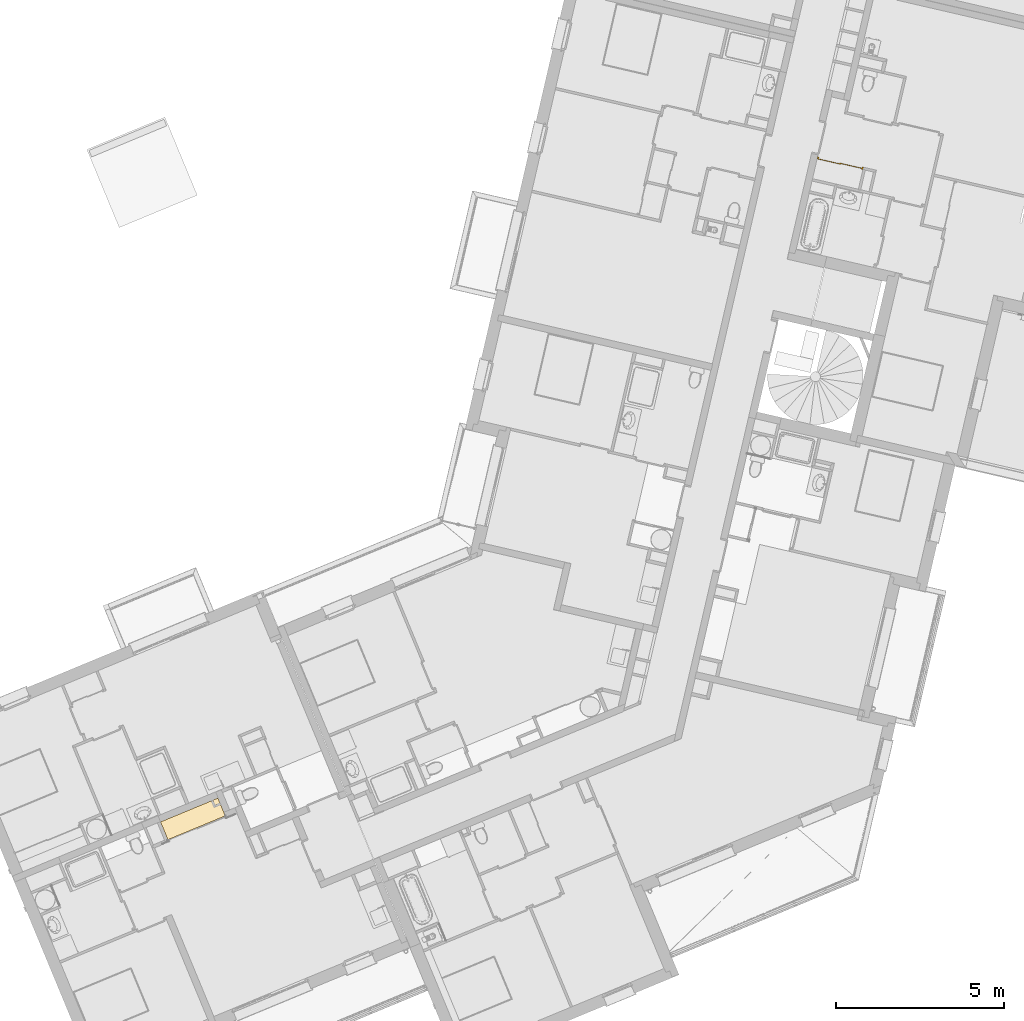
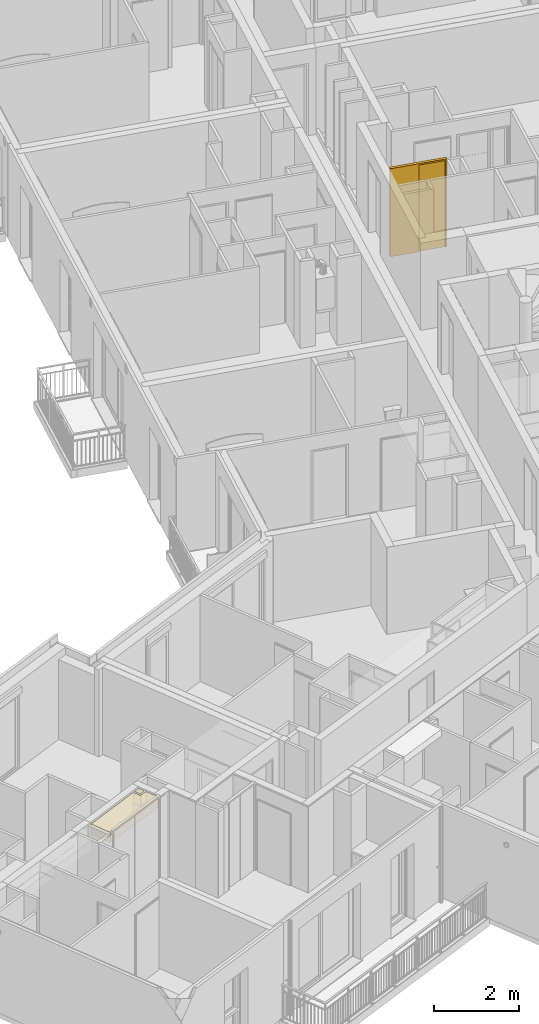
# One storey, part 60 of 90: 1 covering, 1 door.
"""IFC2X3 building model written with IfcOpenShell, lengths in metres."""

from ifc_helpers import new_model, entity, si_unit, converted_unit, derived_unit, money_unit, direction, frame, origin_with_axes, place, context, subcontext, project, spatial, faceted_brep, material, type_object, element, save


model = new_model("IFC2X3")

# Units and contexts
model_context = context("Model", 3, precision=1e-05, world=origin_with_axes(), true_north=direction((0.0, 1.0)))
body_context = subcontext(model_context, "Body", "Model", "MODEL_VIEW")
ifc_project = project(units=[si_unit("LENGTHUNIT", "METRE"), si_unit("AREAUNIT", "SQUARE_METRE"), si_unit("VOLUMEUNIT", "CUBIC_METRE"), converted_unit("PLANEANGLEUNIT", "DEGREE", entity("IfcPlaneAngleMeasure", 0.0174532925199), si_unit("PLANEANGLEUNIT", "RADIAN"), dimensions=[0, 0, 0, 0, 0, 0, 0]), si_unit("SOLIDANGLEUNIT", "STERADIAN"), money_unit("EUR"), converted_unit("TIMEUNIT", "Year", entity("IfcTimeMeasure", 31556926.0), si_unit("TIMEUNIT", "SECOND"), dimensions=[0, 0, 1, 0, 0, 0, 0]), si_unit("MASSUNIT", "GRAM", prefix="KILO"), si_unit("THERMODYNAMICTEMPERATUREUNIT", "DEGREE_CELSIUS"), si_unit("LUMINOUSINTENSITYUNIT", "LUMEN"), si_unit("ENERGYUNIT", "JOULE", prefix="MEGA"), derived_unit("THERMALCONDUCTANCEUNIT", [(si_unit("POWERUNIT", "WATT"), 1), (si_unit("LENGTHUNIT", "METRE"), -1), (si_unit("THERMODYNAMICTEMPERATUREUNIT", "KELVIN"), -1)]), derived_unit("SPECIFICHEATCAPACITYUNIT", [(si_unit("ENERGYUNIT", "JOULE"), 1), (si_unit("MASSUNIT", "GRAM", prefix="KILO"), -1), (si_unit("THERMODYNAMICTEMPERATUREUNIT", "KELVIN"), -1)]), derived_unit("MASSDENSITYUNIT", [(si_unit("MASSUNIT", "GRAM", prefix="KILO"), 1), (si_unit("VOLUMEUNIT", "CUBIC_METRE"), -1)])], contexts=[model_context])

# Site, building, storey
site_placement = place(None, origin_with_axes())
site = spatial("IfcSite", under=ifc_project, at=site_placement, Name="Site", CompositionType="ELEMENT")
building_placement = place(site_placement, origin_with_axes())
building = spatial("IfcBuilding", under=site, at=building_placement, Name="Bâtiment", CompositionType="ELEMENT")
storey_placement = place(building_placement, frame((0.0, 0.0, 2.72), z_axis=(0.0, 0.0, 1.0), x_axis=(1.0, 0.0, 0.0)))
storey = spatial("IfcBuildingStorey", under=building, at=storey_placement, Name="R+1", CompositionType="ELEMENT", Elevation=2.72)

# Door
door_style = type_object("IfcDoorStyle", Name="Porte int générique 2019", ConstructionType="NOTDEFINED", OperationType="USERDEFINED", ParameterTakesPrecedence=False, Sizeable=False)
door_placement = place(storey_placement, frame((-8.13723362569, -1.43199928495, 0.0), z_axis=(0.0, 0.0, 1.0), x_axis=(-0.974387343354, 0.224876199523, 0.0)))
element("IfcDoor", 1, at=door_placement, inside=storey, type_object=door_style, Name="Por-002", ObjectType="DOOR", OverallHeight=2.5, OverallWidth=1.32, context=body_context, shape_type="Brep", body=[
    faceted_brep([(1.36000000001, 0.074, 0.0), (1.32000000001, 0.074, 0.0), (1.32000000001, 0.074, 2.5), (0.0, 0.074, 2.5), (0.0, 0.074, 0.0), (-0.04, 0.074, 0.0), (-0.04, 0.074, 2.54), (1.36000000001, 0.074, 2.54), (1.36000000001, 0.0, 0.0), (1.32000000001, 0.0, 0.0), (1.32000000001, 0.0, 2.5), (0.0, 0.0, 2.5), (0.0, 0.0, 0.0), (-0.04, 0.0, 0.0), (-0.04, 0.0, 2.54), (1.36000000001, 0.0, 2.54)], [[[0, 1, 2, 3, 4, 5, 6, 7]], [[0, 8, 9, 1]], [[1, 9, 10, 2]], [[2, 10, 11, 3]], [[3, 11, 12, 4]], [[5, 4, 12, 13]], [[14, 6, 5, 13]], [[15, 7, 6, 14]], [[8, 0, 7, 15]], [[9, 8, 15, 14, 13, 12, 11, 10]]]),
    faceted_brep([(1.32000000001, 0.074, 0.0), (1.32000000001, 0.054, 0.0), (0.645000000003, 0.054, 0.0), (0.645000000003, 0.074, 0.0), (1.32000000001, 0.074, 2.5), (1.32000000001, 0.054, 2.5), (0.645000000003, 0.054, 2.5), (0.645000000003, 0.074, 2.5)], [[[0, 1, 2, 3]], [[4, 5, 1, 0]], [[1, 5, 6, 2]], [[3, 2, 6, 7]], [[0, 3, 7, 4]], [[7, 6, 5, 4]]]),
    faceted_brep([(0.675000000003, 0.054, 0.0), (0.675000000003, 0.034, 0.0), (0.0, 0.034, 0.0), (0.0, 0.054, 0.0), (0.675000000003, 0.054, 2.5), (0.675000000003, 0.034, 2.5), (0.0, 0.034, 2.5), (0.0, 0.054, 2.5)], [[[0, 1, 2, 3]], [[4, 5, 1, 0]], [[1, 5, 6, 2]], [[3, 2, 6, 7]], [[0, 3, 7, 4]], [[7, 6, 5, 4]]]),
])

# Covering
ifc_material = material(Name="Finition int - Plaque de plâtre")
covering_type = type_object("IfcCoveringType", Name="Finition int - Plaque de plâtre 300", PredefinedType="CEILING")
covering_placement = place(storey_placement, frame((-29.0485312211, -20.9571689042, 2.47000000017), z_axis=(0.0, 0.0, 1.0), x_axis=(1.0, 0.0, 0.0)))
element("IfcCovering", 2, at=covering_placement, inside=storey, type_object=covering_type, material=ifc_material, Name="Dalle_004", PredefinedType="CEILING", context=body_context, shape_type="Brep", body=[
    faceted_brep([(1.55830004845, 0.64631722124, 0.0), (1.62074739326, 0.495753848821, 0.0), (1.77131076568, 0.558201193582, 0.0), (1.70886342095, 0.708764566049, 0.0), (1.55830004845, 0.64631722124, -0.3), (1.62074739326, 0.495753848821, -0.3), (1.77131076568, 0.558201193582, -0.3), (1.70886342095, 0.708764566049, -0.3)], [[[0, 1, 2, 3]], [[4, 5, 1, 0]], [[5, 6, 2, 1]], [[3, 2, 6, 7]], [[7, 4, 0, 3]], [[7, 6, 5, 4]]]),
    faceted_brep([(1.92852613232, 0.179147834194, -0.3), (1.78970016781, 0.513863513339, -0.3), (1.78970016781, 0.513863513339, 0.0), (1.92852613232, 0.179147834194, 0.0), (1.59479911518, 0.433026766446, -0.3), (1.63913679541, 0.45141616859, -0.3), (0.219662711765, -0.52961673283, -0.3), (0.0, 0.0, -0.3), (1.51396236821, 0.627927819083, -0.3), (1.63913679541, 0.45141616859, 0.0), (1.59479911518, 0.433026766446, 0.0), (1.51396236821, 0.627927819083, 0.0), (0.0, 0.0, 0.0), (0.219662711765, -0.52961673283, 0.0)], [[[0, 1, 2, 3]], [[4, 5, 1, 0, 6, 7, 8]], [[5, 9, 2, 1]], [[3, 2, 9, 10, 11, 12, 13]], [[3, 13, 6, 0]], [[10, 9, 5, 4]], [[13, 12, 7, 6]], [[12, 11, 8, 7]], [[8, 11, 10, 4]]]),
])

save(model, "model.ifc")
